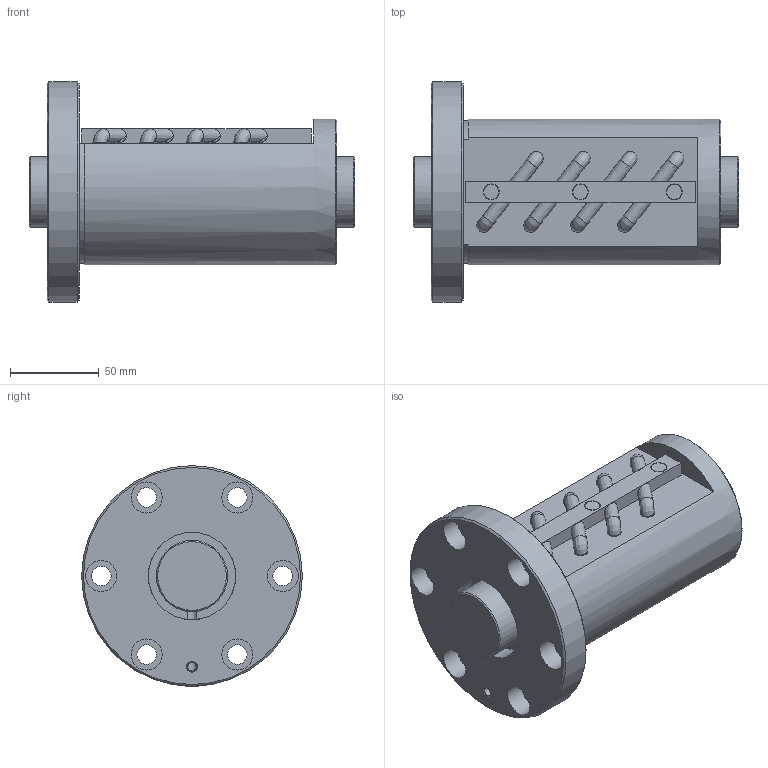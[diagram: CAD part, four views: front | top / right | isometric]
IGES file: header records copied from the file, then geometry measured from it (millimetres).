
Start section: Data from Parasolid IGES Translator 26.0.171, Copyright(c) 2006 Siemens PLM Software. All Rights Reserved.
Global section: file name: BIF4010V-10RRG0+183LC0_000.igs; native system: By Siemens PLM Incorporated; preprocessor: XPlus GENERIC/IGES 26.0.171; author: Noname; organization: Noname; date: 20240715.082411; units: millimetre
Bounding box: 183 x 124 x 124 mm (x, y, z)
Surface area: 121480.5 mm2 (no closed solid volume)
Topology: 0 solids, 0 shells, 128 faces, 580 edges, 548 vertices
Faces by surface type: revolution 75, extrusion 53
